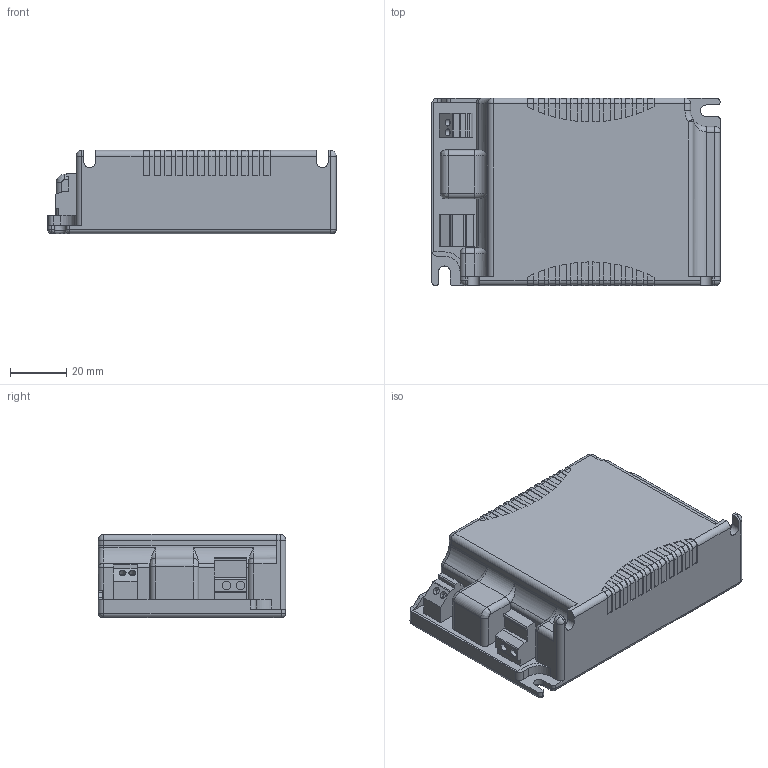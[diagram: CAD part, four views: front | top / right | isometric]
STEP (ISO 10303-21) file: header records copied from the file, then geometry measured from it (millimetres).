
FILE_DESCRIPTION((''),'2;1');
FILE_NAME('15010069Z_DATAMEC_103X67_C','2015-12-17T',('juergen.hrach'),(''),'PRO/ENGINEER BY PARAMETRIC TECHNOLOGY CORPORATION, 2015200','PRO/ENGINEER BY PARAMETRIC TECHNOLOGY CORPORATION, 2015200','');
FILE_SCHEMA(('AUTOMOTIVE_DESIGN { 1 0 10303 214 1 1 1 1 }'));
Length unit declared in the file: millimetre
Products named in the file (1): 15010069Z_DATAMEC_103X67_C
Bounding box: 103 x 67 x 29.7 mm (x, y, z)
Volume: 176904.4 mm3; surface area: 24185.7 mm2
Topology: 1 solids, 1 shells, 370 faces, 1029 edges, 667 vertices
Faces by surface type: plane 193, cylinder 146, bspline 11, sphere 10, torus 9, extrusion 1
Entity records: 14818 total; most frequent: CARTESIAN_POINT 2483, ORIENTED_EDGE 2058, DIRECTION 2048, EDGE_CURVE 1029, VECTOR 698, LINE 697, AXIS2_PLACEMENT_3D 675, VERTEX_POINT 667
